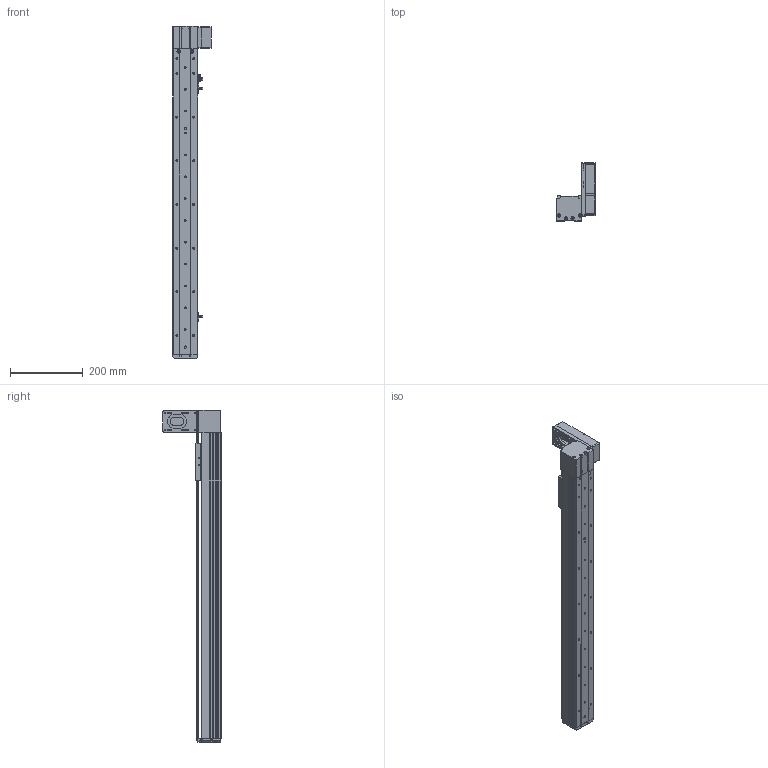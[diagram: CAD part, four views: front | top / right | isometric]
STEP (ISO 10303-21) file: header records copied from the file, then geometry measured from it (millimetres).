
FILE_DESCRIPTION (( 'STEP AP214' ), '1' );
FILE_NAME ('KSD68BS-S650-MLU-CM.STEP', '2019-11-06T06:25:50', ( '微软用户' ), ( '微软中国' ), 'SwSTEP 2.0', 'SolidWorks 2014', '' );
FILE_SCHEMA (( 'AUTOMOTIVE_DESIGN' ));
Length unit declared in the file: millimetre
Products named in the file (10): 悵誘欶奻狟殏; 68宽马达安装板连板上折同步带-57步进; 68宽单导轨半封闭同步带主动轮座左; 68单导轨同步带半封闭端板; KSD68BS 650俴最裔啣圉猾敕; 覜茼え68遵圉猾敕; KSD68BS半封闭同步带传动导轨座; U倰嫖萇EEㄜSX672; KSD68BS 650俴最菁啣圉猾敕; KSD68BS-S650-MLU-CM
Assembly tree (11 placements, depth 2):
  KSD68BS-S650-MLU-CM
    KSD68BS 650俴最菁啣圉猾敕
    U倰嫖萇EEㄜSX672  x3
    KSD68BS半封闭同步带传动导轨座
    覜茼え68遵圉猾敕
    KSD68BS 650俴最裔啣圉猾敕
    68单导轨同步带半封闭端板
    68宽单导轨半封闭同步带主动轮座左
    68宽马达安装板连板上折同步带-57步进
    悵誘欶奻狟殏
Bounding box: 104.5 x 159.5 x 912 mm (x, y, z)
Volume: 1504528.4 mm3; surface area: 608344.9 mm2
Topology: 11 solids, 11 shells, 1275 faces, 3645 edges, 2367 vertices
Faces by surface type: cylinder 623, plane 573, cone 79
Entity records: 46682 total; most frequent: CARTESIAN_POINT 8760, ORIENTED_EDGE 6046, DIRECTION 5975, EDGE_CURVE 3023, AXIS2_PLACEMENT_3D 2134, VERTEX_POINT 1991, LINE 1707, VECTOR 1707
